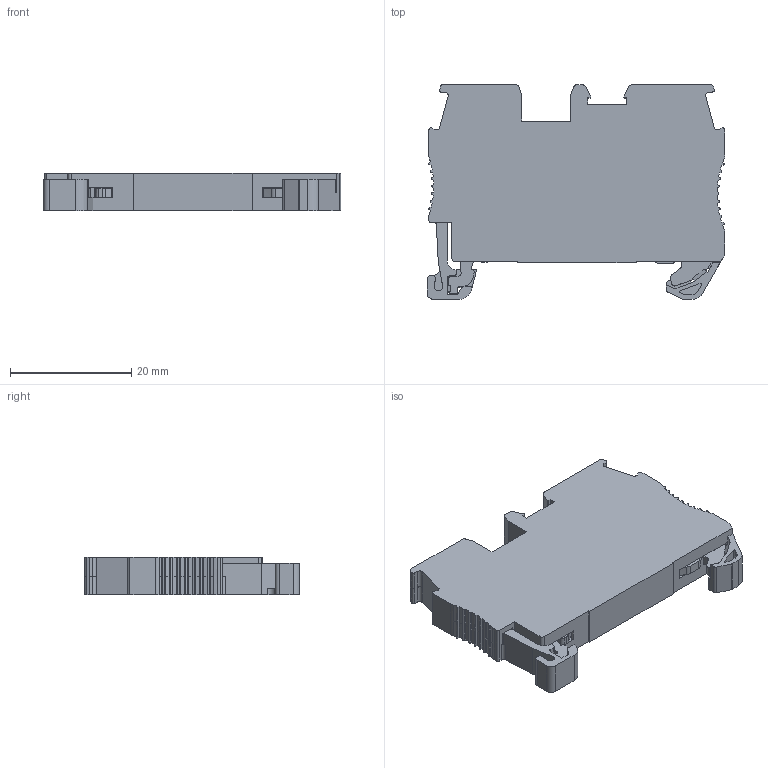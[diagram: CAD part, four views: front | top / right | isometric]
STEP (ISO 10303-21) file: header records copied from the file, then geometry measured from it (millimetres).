
FILE_DESCRIPTION(/* description */ (''),/* implementation_level */ '2;1');
FILE_NAME(/* name */ '815250_MTS_2.5PE.stp',/* time_stamp */ '2019-03-14T15:24:42+08:00',/* author */ (''),/* organization */ (''),/* preprocessor_version */ 'ST-DEVELOPER v11',/* originating_system */ 'SIEMENS UGS NX 6.0',/* authorisation */ '');
FILE_SCHEMA (('AUTOMOTIVE_DESIGN { 1 0 10303 214 1 1 1 1 }'));
Length unit declared in the file: millimetre
Products named in the file (1): RST2.5PE_2017_stp
Bounding box: 49.1 x 35.4 x 6.2 mm (x, y, z)
Surface area: 9374.4 mm2
Topology: 8 solids, 9 shells, 923 faces, 2681 edges, 1749 vertices
Faces by surface type: plane 535, cylinder 314, cone 58, bspline 10, torus 4, extrusion 2
Full cylindrical faces by diameter (mm): 1.1 x2, 1.3 x6, 1.38 x6, 1.517 x1, 1.9 x2, 2 x2, 3.4 x1
Entity records: 30781 total; most frequent: CARTESIAN_POINT 6487, ORIENTED_EDGE 5156, DIRECTION 4997, EDGE_CURVE 2578, VECTOR 1783, LINE 1781, VERTEX_POINT 1707, AXIS2_PLACEMENT_3D 1607
